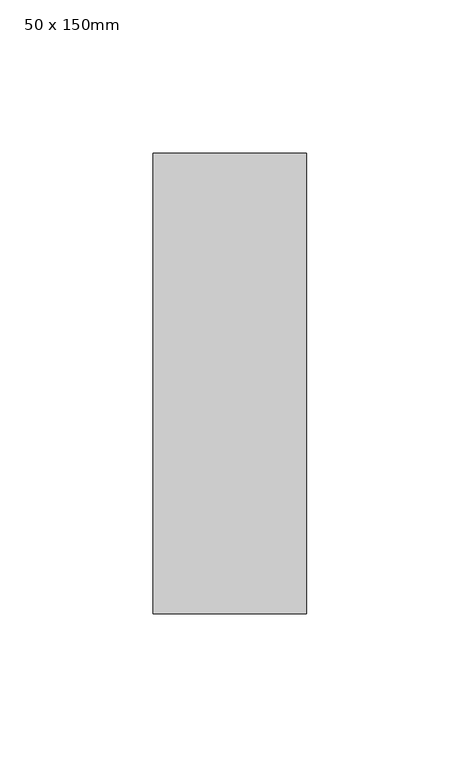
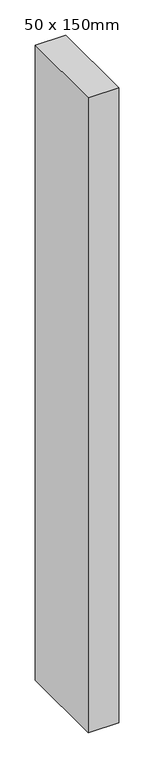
"""IFC4 building model written with IfcOpenShell, lengths in millimetres: member geometry, Прямоугольный импост : 50 x 150mm."""

import ifcopenshell
import ifcopenshell.guid

model = None  # the IFC model being written
_history = None  # IfcOwnerHistory: only IFC2X3 demands one
_inside = {}  # id of a spatial element -> (the spatial element, [elements in it])
_under = {}  # id of a project, library or spatial element -> (it, [spatial elements below it])
_declared = {}  # id of a project -> (the project, [libraries it declares])
_typed = {}  # id of a type object -> (the type object, [elements of that type])
_made_of = {}  # id of a material, layer set ... -> (it, [elements and type objects made of it])


def new_model(schema):
    """Start an empty IFC model of exactly this schema.

    Asked for "IFC4X3", IfcOpenShell would pick the latest addendum, in which some entities
    have other attributes; the version numbers below select the first issue.
    IFC2X3 requires an IfcOwnerHistory on every rooted entity: one is made here for all.
    """
    global model, _history
    if schema == "IFC4X3":
        model = ifcopenshell.file(schema_version=(4, 3, 0, 0))
    else:
        model = ifcopenshell.file(schema=schema)
    _inside.clear()
    _under.clear()
    _declared.clear()
    _typed.clear()
    _made_of.clear()
    _history = None
    if model.schema == "IFC2X3":
        org = make("IfcOrganization", Name="unknown")
        user = make(
            "IfcPersonAndOrganization",
            ThePerson=make("IfcPerson", FamilyName="unknown"),
            TheOrganization=org,
        )
        app = make(
            "IfcApplication",
            ApplicationDeveloper=org,
            Version="unknown",
            ApplicationFullName="unknown",
            ApplicationIdentifier="unknown",
        )
        _history = make(
            "IfcOwnerHistory",
            OwningUser=user,
            OwningApplication=app,
            ChangeAction="ADDED",
            CreationDate=0,
        )
    return model


def make(cls, **values):
    """One entity of the class cls with the attributes given. An attribute that is None is left unset."""
    return model.create_entity(
        cls, **{name: value for name, value in values.items() if value is not None}
    )


def rooted(cls, **values):
    """An entity with a GlobalId (a new one), such as an element, a storey or a relation."""
    return make(cls, GlobalId=ifcopenshell.guid.new(), OwnerHistory=_history, **values)


def si_unit(unit_type, name, prefix=None):
    """IfcSIUnit, for example si_unit("LENGTHUNIT", "METRE", prefix="MILLI")."""
    return make("IfcSIUnit", UnitType=unit_type, Prefix=prefix, Name=name)


def assignment(units):
    """IfcUnitAssignment: the units of a project."""
    return None if units is None else make("IfcUnitAssignment", Units=units)


def point(xyz):
    """IfcCartesianPoint."""
    return None if xyz is None else make("IfcCartesianPoint", Coordinates=xyz)


def direction(xyz):
    """IfcDirection."""
    return None if xyz is None else make("IfcDirection", DirectionRatios=xyz)


def frame(location, z_axis=None, x_axis=None):
    """IfcAxis2Placement3D, a coordinate frame: its origin and axes. An axis left out is left unset."""
    return make(
        "IfcAxis2Placement3D",
        Location=point(location),
        Axis=direction(z_axis),
        RefDirection=direction(x_axis),
    )


def origin():
    """The frame at (0, 0, 0) with its axes left unset."""
    return frame((0.0, 0.0, 0.0))


def place(relative_to, where):
    """IfcLocalPlacement: puts the frame where relative to a parent placement (None: the world)."""
    return make(
        "IfcLocalPlacement", PlacementRelTo=relative_to, RelativePlacement=where
    )


def context(
    kind, dimensions, precision=None, world=None, true_north=None, identifier=None
):
    """IfcGeometricRepresentationContext, for example the 3D "Model" context."""
    return make(
        "IfcGeometricRepresentationContext",
        ContextIdentifier=identifier,
        ContextType=kind,
        CoordinateSpaceDimension=dimensions,
        Precision=precision,
        WorldCoordinateSystem=world,
        TrueNorth=true_north,
    )


def project(units=None, contexts=None):
    """IfcProject with its units and contexts."""
    return rooted(
        "IfcProject",
        Name="project",
        RepresentationContexts=contexts,
        UnitsInContext=assignment(units),
    )


def spatial(cls, under=None, at=None, **own):
    """A site, building, storey or space (cls), placed at a placement, below another one or the project."""
    s = rooted(cls, ObjectPlacement=at, **own)
    if under is not None:
        _under.setdefault(under.id(), (under, []))[1].append(s)
    return s


def polyline(points):
    """IfcPolyline through the points."""
    return make("IfcPolyline", Points=[point(p) for p in points])


def outline(outer, holes=None, kind="AREA"):
    """IfcArbitraryClosedProfileDef: a profile drawn as a closed curve; with holes, ...WithVoids."""
    if holes is None:
        return make("IfcArbitraryClosedProfileDef", ProfileType=kind, OuterCurve=outer)
    return make(
        "IfcArbitraryProfileDefWithVoids",
        ProfileType=kind,
        OuterCurve=outer,
        InnerCurves=holes,
    )


def extrude(swept, where, along, depth):
    """IfcExtrudedAreaSolid: the profile swept, set in the frame where, extruded along a direction by depth."""
    return make(
        "IfcExtrudedAreaSolid",
        SweptArea=swept,
        Position=where,
        ExtrudedDirection=direction(along),
        Depth=depth,
    )


def shape(context_of_items, identifier, shape_type, items):
    """IfcShapeRepresentation: the items that make up one representation, for example the "Body"."""
    return make(
        "IfcShapeRepresentation",
        ContextOfItems=context_of_items,
        RepresentationIdentifier=identifier,
        RepresentationType=shape_type,
        Items=items,
    )


def source(mapping_origin, context_of_items, identifier, shape_type, items):
    """IfcRepresentationMap: a shape defined once, which mapped items show again and again."""
    return make(
        "IfcRepresentationMap",
        MappingOrigin=mapping_origin,
        MappedRepresentation=shape(context_of_items, identifier, shape_type, items),
    )


def transform(
    local_origin,
    x_axis=None,
    y_axis=None,
    z_axis=None,
    scale=None,
    scale2=None,
    scale3=None,
    uniform=True,
):
    """IfcCartesianTransformationOperator3D, or its non-uniform kind. x_axis, y_axis, z_axis: its Axis1, 2, 3."""
    if uniform:
        return make(
            "IfcCartesianTransformationOperator3D",
            Axis1=direction(x_axis),
            Axis2=direction(y_axis),
            LocalOrigin=point(local_origin),
            Scale=scale,
            Axis3=direction(z_axis),
        )
    return make(
        "IfcCartesianTransformationOperator3DnonUniform",
        Axis1=direction(x_axis),
        Axis2=direction(y_axis),
        LocalOrigin=point(local_origin),
        Scale=scale,
        Axis3=direction(z_axis),
        Scale2=scale2,
        Scale3=scale3,
    )


def mapped(mapping_source, mapping_target):
    """IfcMappedItem: shows the shape of a source again, moved by a transform."""
    return make(
        "IfcMappedItem", MappingSource=mapping_source, MappingTarget=mapping_target
    )


def made_of(thing, what):
    """Note that an element or type object is made of a material, layer set ...; save() writes the relation."""
    if what is not None:
        _made_of.setdefault(what.id(), (what, []))[1].append(thing)
    return thing


def element(
    cls,
    number,
    at=None,
    inside=None,
    cuts=None,
    type_object=None,
    material=None,
    context=None,
    identifier="Body",
    shape_type=None,
    held_by="IfcProductDefinitionShape",
    body=None,
    shapes=None,
    **own,
):
    """One element of the class cls, such as IfcWall. Its Tag is "e" and its number.

    at: its placement. inside: the storey or other place that contains it. cuts: it is an
    opening in that element (IfcRelVoidsElement). A single representation is given by context,
    identifier, shape_type and body (its items); several are given by shapes. held_by: the class
    of the entity that holds the representations. save() writes the other relations.
    """
    e = rooted(cls, Tag="e%d" % number, ObjectPlacement=at, **own)
    if body is not None:
        shapes = [shape(context, identifier, shape_type, body)]
    if shapes is not None:
        e.Representation = make(held_by, Representations=shapes)
    if inside is not None:
        _inside.setdefault(inside.id(), (inside, []))[1].append(e)
    if cuts is not None:
        rooted(
            "IfcRelVoidsElement", RelatingBuildingElement=cuts, RelatedOpeningElement=e
        )
    if type_object is not None:
        _typed.setdefault(type_object.id(), (type_object, []))[1].append(e)
    return made_of(e, material)


def aggregate(whole, parts):
    """IfcRelAggregates: a whole, such as a stair, and the parts it consists of."""
    return rooted("IfcRelAggregates", RelatingObject=whole, RelatedObjects=parts)


def save(model, path):
    """Write the relations noted so far, then the file.

    IfcRelAggregates (storeys below a building ...), IfcRelContainedInSpatialStructure (elements
    in a storey), IfcRelDefinesByType, IfcRelAssociatesMaterial and IfcRelDeclares: one each for
    every whole, place, type object, material and project.
    """
    for whole, parts in _under.values():
        aggregate(whole, parts)
    for where, things in _inside.values():
        rooted(
            "IfcRelContainedInSpatialStructure",
            RelatedElements=things,
            RelatingStructure=where,
        )
    for kind, things in _typed.values():
        rooted("IfcRelDefinesByType", RelatedObjects=things, RelatingType=kind)
    for what, things in _made_of.values():
        rooted("IfcRelAssociatesMaterial", RelatedObjects=things, RelatingMaterial=what)
    for by, libraries in _declared.values():
        rooted("IfcRelDeclares", RelatingContext=by, RelatedDefinitions=libraries)
    model.write(path)


def member_50_x_150mm_1968fb4a(model_context):
    return source(origin(), model_context, "Body", "SweptSolid", [
        extrude(outline(polyline([(0.0, 75.0), (0.0, -75.0), (-50.0, -75.0), (-50.0, 75.0), (0.0, 75.0)])), frame((0.0, 0.0, -1100.0), z_axis=(0.0, 0.0, 1.0), x_axis=(1.0, 0.0, 0.0)), (0.0, 0.0, 1.0), 1100.0),
    ])


if __name__ == "__main__":
    model = new_model("IFC4")
    model_context = context("Model", 3, world=origin())
    ifc_project = project(units=[si_unit("LENGTHUNIT", "METRE", prefix="MILLI")], contexts=[model_context])
    site = spatial("IfcSite", under=ifc_project)
    building = spatial("IfcBuilding", under=site)
    placement = place(None, origin())
    member_50_x_150mm_shape = member_50_x_150mm_1968fb4a(model_context)
    element("IfcMember", 1, ObjectType="Прямоугольный импост : 50 x 150mm", at=placement, inside=building, context=model_context, shape_type="MappedRepresentation", body=[
        mapped(member_50_x_150mm_shape, transform((0.0, 0.0, 0.0), x_axis=(1.0, 0.0, 0.0), y_axis=(0.0, 1.0, 0.0), z_axis=(0.0, 0.0, 1.0))),
    ])
    save(model, "model.ifc")
